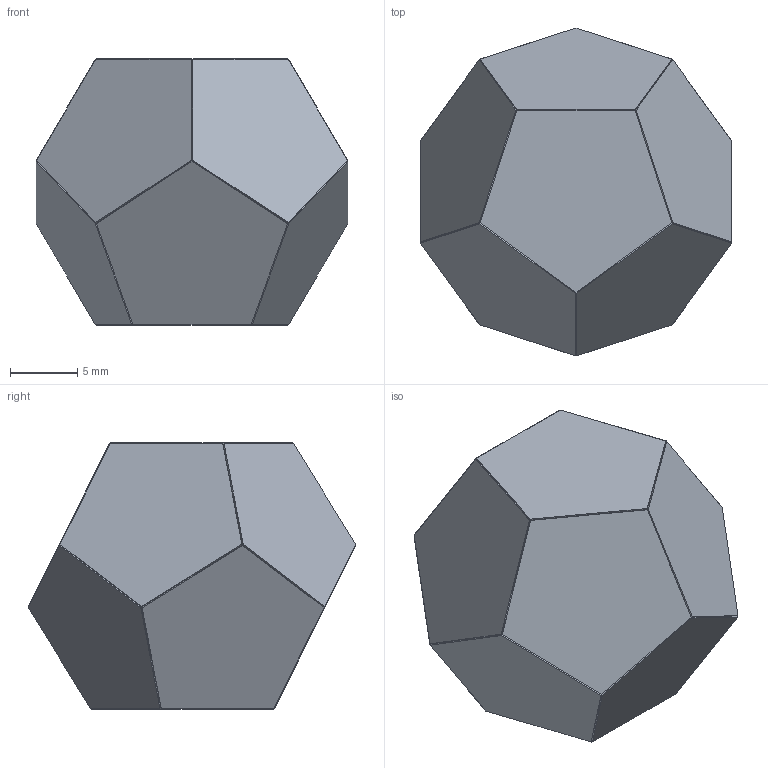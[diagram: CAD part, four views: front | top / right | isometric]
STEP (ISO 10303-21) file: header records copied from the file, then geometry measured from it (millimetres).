
FILE_DESCRIPTION((''),'2;1');
FILE_NAME('ASM0002_ASM','2022-04-23T15:04:42',('hocsas'),(''),'CREO PARAMETRIC BY PTC INC, 2020053','CREO PARAMETRIC BY PTC INC, 2020053','');
FILE_SCHEMA(('CONFIG_CONTROL_DESIGN'));
Length unit declared in the file: millimetre
Products named in the file (3): PRT0001; ASM0001_ASM; ASM0002_ASM
Assembly tree (8 placements, depth 3):
  ASM0002_ASM
    ASM0001_ASM  x2
      PRT0001
Bounding box: 23.25 x 24.45 x 19.84 mm (x, y, z)
Volume: 160.5 mm3; surface area: 3262.7 mm2
Topology: 12 solids, 12 shells, 84 faces, 180 edges, 120 vertices
Faces by surface type: plane 84
Entity records: 351 total; most frequent: DIRECTION 63, CARTESIAN_POINT 49, ORIENTED_EDGE 30, AXIS2_PLACEMENT_3D 24, VECTOR 15, LINE 15, EDGE_CURVE 15, PRODUCT_DEFINITION_SHAPE 11
